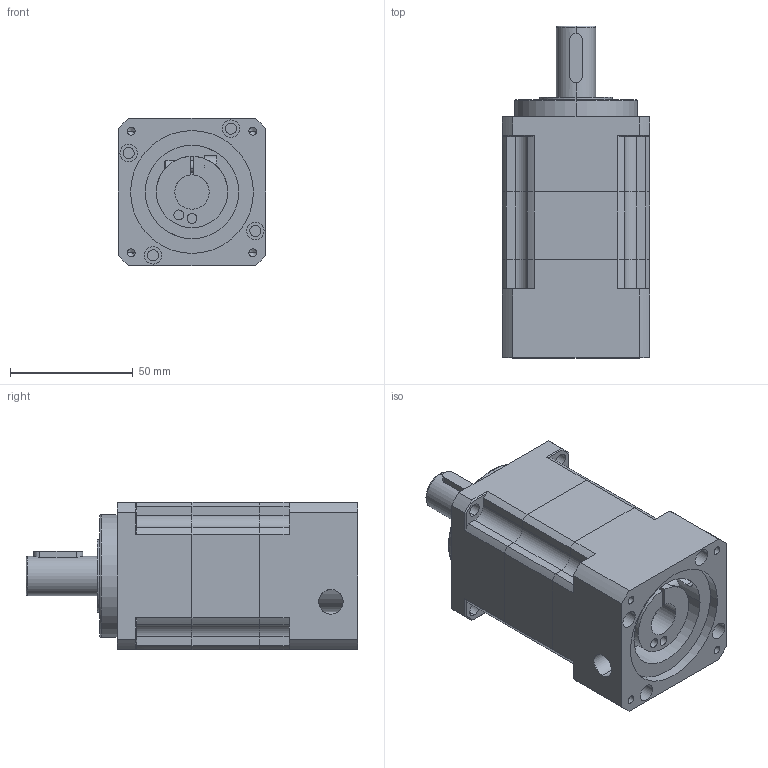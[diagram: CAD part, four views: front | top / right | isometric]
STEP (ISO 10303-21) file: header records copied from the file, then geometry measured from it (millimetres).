
FILE_DESCRIPTION (( 'STEP AP214' ), '1' );
FILE_NAME ('PB60-L2.STEP', '2019-01-05T02:51:25', ( '微软用户' ), ( '微软中国' ), 'SwSTEP 2.0', 'SolidWorks 2014', '' );
FILE_SCHEMA (( 'AUTOMOTIVE_DESIGN' ));
Length unit declared in the file: millimetre
Products named in the file (6): 囀鞠褒蹟佪-M5℅16; PB60俋倛芞狟裔啣; PB60外形图二级齿圈_72T; PB60-L2; PB60俋倛芞奻裔啣_72T; 邧埴瑩 5x5x20
Assembly tree (5 placements, depth 2):
  PB60-L2
    PB60俋倛芞奻裔啣_72T
    PB60俋倛芞狟裔啣
    邧埴瑩 5x5x20
    PB60外形图二级齿圈_72T
    囀鞠褒蹟佪-M5℅16
Bounding box: 60 x 135 x 60 mm (x, y, z)
Volume: 312426.3 mm3; surface area: 57294.5 mm2
Topology: 5 solids, 5 shells, 278 faces, 700 edges, 442 vertices
Faces by surface type: cylinder 138, plane 104, cone 28, torus 8
Entity records: 8962 total; most frequent: CARTESIAN_POINT 1781, DIRECTION 1520, ORIENTED_EDGE 1364, EDGE_CURVE 682, AXIS2_PLACEMENT_3D 581, VERTEX_POINT 442, VECTOR 358, LINE 358
